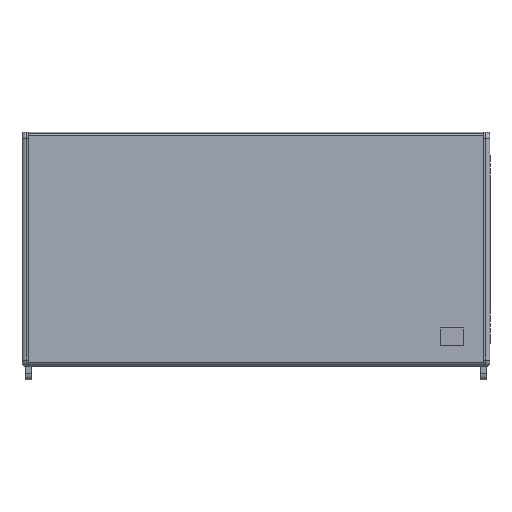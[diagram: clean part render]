
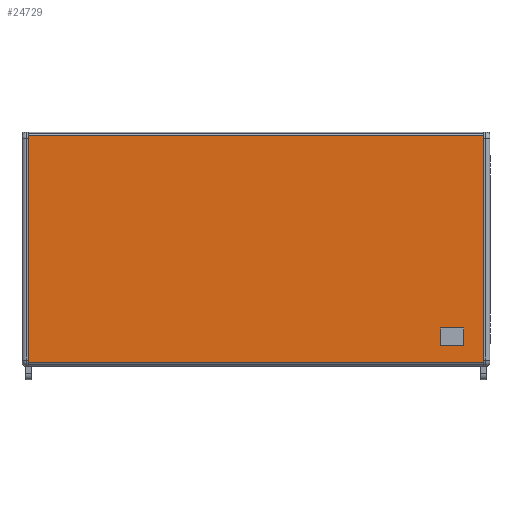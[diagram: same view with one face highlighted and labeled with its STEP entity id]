
A CAD part, top view. The second image highlights one B-rep face of the part: STEP entity #24729.
In plain terms, the highlighted planar face has unit normal (0, 0, 1).
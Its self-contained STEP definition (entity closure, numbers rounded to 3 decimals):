
#2596 = FACE_BOUND ( 'NONE', #25872, .T. ) ;
#2597 = FACE_OUTER_BOUND ( 'NONE', #25883, .T. ) ;
#24729 = ADVANCED_FACE ( 'NONE', ( #2596, #2597 ), #75501, .T. ) ;
#25872 = EDGE_LOOP ( 'NONE', ( #38221, #38222, #38223, #38224, #38225, #38226, #38227, #38228 ) ) ;
#25883 = EDGE_LOOP ( 'NONE', ( #38229, #38230, #38231, #38232 ) ) ;
#28125 = VERTEX_POINT ( 'NONE', #54989 ) ;
#28126 = VERTEX_POINT ( 'NONE', #54991 ) ;
#28131 = VERTEX_POINT ( 'NONE', #55001 ) ;
#28132 = VERTEX_POINT ( 'NONE', #55003 ) ;
#28133 = VERTEX_POINT ( 'NONE', #55005 ) ;
#28134 = VERTEX_POINT ( 'NONE', #55007 ) ;
#28135 = VERTEX_POINT ( 'NONE', #55009 ) ;
#28136 = VERTEX_POINT ( 'NONE', #55011 ) ;
#28137 = VERTEX_POINT ( 'NONE', #55013 ) ;
#28138 = VERTEX_POINT ( 'NONE', #55015 ) ;
#28139 = VERTEX_POINT ( 'NONE', #55017 ) ;
#28140 = VERTEX_POINT ( 'NONE', #55019 ) ;
#31194 = EDGE_CURVE ( 'NONE', #28125, #28126, #62634, .T. ) ;
#31200 = EDGE_CURVE ( 'NONE', #28132, #28131, #62653, .T. ) ;
#31202 = EDGE_CURVE ( 'NONE', #28133, #28134, #62665, .T. ) ;
#31203 = EDGE_CURVE ( 'NONE', #28135, #28133, #62663, .T. ) ;
#31204 = EDGE_CURVE ( 'NONE', #28136, #28135, #62672, .T. ) ;
#31205 = EDGE_CURVE ( 'NONE', #28137, #28136, #62670, .T. ) ;
#31206 = EDGE_CURVE ( 'NONE', #28138, #28137, #62679, .T. ) ;
#31207 = EDGE_CURVE ( 'NONE', #28139, #28138, #62677, .T. ) ;
#31208 = EDGE_CURVE ( 'NONE', #28140, #28139, #62686, .T. ) ;
#31209 = EDGE_CURVE ( 'NONE', #28134, #28140, #62684, .T. ) ;
#31210 = EDGE_CURVE ( 'NONE', #28125, #28131, #62690, .T. ) ;
#31211 = EDGE_CURVE ( 'NONE', #28132, #28126, #62694, .T. ) ;
#38221 = ORIENTED_EDGE ( 'NONE', *, *, #31202, .F. ) ;
#38222 = ORIENTED_EDGE ( 'NONE', *, *, #31203, .F. ) ;
#38223 = ORIENTED_EDGE ( 'NONE', *, *, #31204, .F. ) ;
#38224 = ORIENTED_EDGE ( 'NONE', *, *, #31205, .F. ) ;
#38225 = ORIENTED_EDGE ( 'NONE', *, *, #31206, .F. ) ;
#38226 = ORIENTED_EDGE ( 'NONE', *, *, #31207, .F. ) ;
#38227 = ORIENTED_EDGE ( 'NONE', *, *, #31208, .F. ) ;
#38228 = ORIENTED_EDGE ( 'NONE', *, *, #31209, .F. ) ;
#38229 = ORIENTED_EDGE ( 'NONE', *, *, #31210, .F. ) ;
#38230 = ORIENTED_EDGE ( 'NONE', *, *, #31194, .T. ) ;
#38231 = ORIENTED_EDGE ( 'NONE', *, *, #31211, .F. ) ;
#38232 = ORIENTED_EDGE ( 'NONE', *, *, #31200, .T. ) ;
#39744 = AXIS2_PLACEMENT_3D ( 'NONE', #75502, #75503, #75504 ) ;
#54989 = CARTESIAN_POINT ( 'NONE',  ( -361.644, 85.004, 210.398 ) ) ;
#54991 = CARTESIAN_POINT ( 'NONE',  ( -361.644, -283.714, 210.398 ) ) ;
#55001 = CARTESIAN_POINT ( 'NONE',  ( 378.356, 85.004, 210.398 ) ) ;
#55003 = CARTESIAN_POINT ( 'NONE',  ( 378.356, -283.714, 210.398 ) ) ;
#55005 = CARTESIAN_POINT ( 'NONE',  ( 309.356, -226.355, 210.398 ) ) ;
#55007 = CARTESIAN_POINT ( 'NONE',  ( 308.356, -227.355, 210.398 ) ) ;
#55009 = CARTESIAN_POINT ( 'NONE',  ( 344.356, -226.355, 210.398 ) ) ;
#55011 = CARTESIAN_POINT ( 'NONE',  ( 345.356, -227.355, 210.398 ) ) ;
#55013 = CARTESIAN_POINT ( 'NONE',  ( 345.356, -255.355, 210.398 ) ) ;
#55015 = CARTESIAN_POINT ( 'NONE',  ( 344.356, -256.355, 210.398 ) ) ;
#55017 = CARTESIAN_POINT ( 'NONE',  ( 309.356, -256.355, 210.398 ) ) ;
#55019 = CARTESIAN_POINT ( 'NONE',  ( 308.356, -255.355, 210.398 ) ) ;
#59235 = AXIS2_PLACEMENT_3D ( 'NONE', #64791, #64792, #64793 ) ;
#59236 = AXIS2_PLACEMENT_3D ( 'NONE', #64796, #64797, #64798 ) ;
#59237 = AXIS2_PLACEMENT_3D ( 'NONE', #64801, #64802, #64803 ) ;
#59238 = AXIS2_PLACEMENT_3D ( 'NONE', #64806, #64807, #64808 ) ;
#62634 = LINE ( 'NONE', #64771, #62636 ) ;
#62636 = VECTOR ( 'NONE', #64772, 1000. ) ;
#62653 = LINE ( 'NONE', #64786, #62657 ) ;
#62657 = VECTOR ( 'NONE', #64787, 1000. ) ;
#62663 = LINE ( 'NONE', #64794, #62667 ) ;
#62665 = CIRCLE ( 'NONE', #59235, 1. ) ;
#62667 = VECTOR ( 'NONE', #64795, 1000. ) ;
#62670 = LINE ( 'NONE', #64799, #62674 ) ;
#62672 = CIRCLE ( 'NONE', #59236, 1. ) ;
#62674 = VECTOR ( 'NONE', #64800, 1000. ) ;
#62677 = LINE ( 'NONE', #64804, #62681 ) ;
#62679 = CIRCLE ( 'NONE', #59237, 1. ) ;
#62681 = VECTOR ( 'NONE', #64805, 1000. ) ;
#62684 = LINE ( 'NONE', #64809, #62688 ) ;
#62686 = CIRCLE ( 'NONE', #59238, 1. ) ;
#62688 = VECTOR ( 'NONE', #64810, 1000. ) ;
#62690 = LINE ( 'NONE', #64811, #62692 ) ;
#62692 = VECTOR ( 'NONE', #64812, 1000. ) ;
#62694 = LINE ( 'NONE', #64813, #62696 ) ;
#62696 = VECTOR ( 'NONE', #64814, 1000. ) ;
#64771 = CARTESIAN_POINT ( 'NONE',  ( -361.644, 90.645, 210.398 ) ) ;
#64772 = DIRECTION ( 'NONE',  ( 0., -1., 0. ) ) ;
#64786 = CARTESIAN_POINT ( 'NONE',  ( 378.356, 90.645, 210.398 ) ) ;
#64787 = DIRECTION ( 'NONE',  ( 0., 1., 0. ) ) ;
#64791 = CARTESIAN_POINT ( 'NONE',  ( 309.356, -227.355, 210.398 ) ) ;
#64792 = DIRECTION ( 'NONE',  ( 0., 0., 1. ) ) ;
#64793 = DIRECTION ( 'NONE',  ( 1., 0., 0. ) ) ;
#64794 = CARTESIAN_POINT ( 'NONE',  ( 309.356, -226.355, 210.398 ) ) ;
#64795 = DIRECTION ( 'NONE',  ( -1., 0., 0. ) ) ;
#64796 = CARTESIAN_POINT ( 'NONE',  ( 344.356, -227.355, 210.398 ) ) ;
#64797 = DIRECTION ( 'NONE',  ( 0., 0., 1. ) ) ;
#64798 = DIRECTION ( 'NONE',  ( -1., 0., 0. ) ) ;
#64799 = CARTESIAN_POINT ( 'NONE',  ( 345.356, -227.355, 210.398 ) ) ;
#64800 = DIRECTION ( 'NONE',  ( 0., 1., 0. ) ) ;
#64801 = CARTESIAN_POINT ( 'NONE',  ( 344.356, -255.355, 210.398 ) ) ;
#64802 = DIRECTION ( 'NONE',  ( 0., 0., 1. ) ) ;
#64803 = DIRECTION ( 'NONE',  ( 1., 0., 0. ) ) ;
#64804 = CARTESIAN_POINT ( 'NONE',  ( 309.356, -256.355, 210.398 ) ) ;
#64805 = DIRECTION ( 'NONE',  ( 1., 0., 0. ) ) ;
#64806 = CARTESIAN_POINT ( 'NONE',  ( 309.356, -255.355, 210.398 ) ) ;
#64807 = DIRECTION ( 'NONE',  ( 0., 0., 1. ) ) ;
#64808 = DIRECTION ( 'NONE',  ( 1., 0., 0. ) ) ;
#64809 = CARTESIAN_POINT ( 'NONE',  ( 308.356, -227.355, 210.398 ) ) ;
#64810 = DIRECTION ( 'NONE',  ( 0., -1., 0. ) ) ;
#64811 = CARTESIAN_POINT ( 'NONE',  ( 388.356, 85.004, 210.398 ) ) ;
#64812 = DIRECTION ( 'NONE',  ( 1., 0., 0. ) ) ;
#64813 = CARTESIAN_POINT ( 'NONE',  ( 388.356, -283.714, 210.398 ) ) ;
#64814 = DIRECTION ( 'NONE',  ( -1., 0., 0. ) ) ;
#75501 = PLANE ( 'NONE',  #39744 ) ;
#75502 = CARTESIAN_POINT ( 'NONE',  ( -361.644, -289.355, 210.398 ) ) ;
#75503 = DIRECTION ( 'NONE',  ( 0., 0., 1. ) ) ;
#75504 = DIRECTION ( 'NONE',  ( 1., 0., 0. ) ) ;
